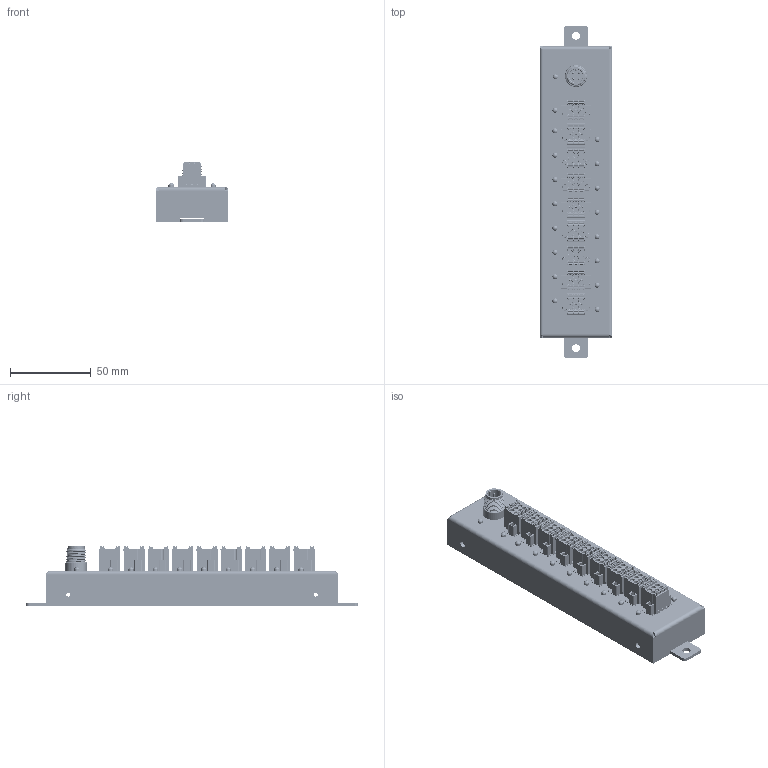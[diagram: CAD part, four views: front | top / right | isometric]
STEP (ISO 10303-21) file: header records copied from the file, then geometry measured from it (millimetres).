
FILE_DESCRIPTION (( 'STEP AP214' ), '1' );
FILE_NAME ('长款.STEP', '2024-08-28T09:56:24', ( '微软用户' ), ( '微软中国' ), 'SwSTEP 2.0', 'SolidWorks 2023', '' );
FILE_SCHEMA (( 'AUTOMOTIVE_DESIGN' ));
Length unit declared in the file: millimetre
Products named in the file (9): 000_137_103; MC-DPT3.5V06-I-BK-2000-直针; 底壳; MC-DRT3.5H06P-K-0001; KSD-JS000628-长款为IOL20-A; 长款; 上盖; M12A04C-MPBRCU-004(M12A面板式公头4芯-4，IO); PCB
Assembly tree (41 placements, depth 3):
  长款
    KSD-JS000628-长款为IOL20-A
      底壳
      上盖
      PCB
    MC-DRT3.5H06P-K-0001  x9
    MC-DPT3.5V06-I-BK-2000-直针  x9
    M12A04C-MPBRCU-004(M12A面板式公头4芯-4，IO)
    000_137_103  x18
Bounding box: 45 x 205 x 37 mm (x, y, z)
Volume: 89379.4 mm3; surface area: 101408.8 mm2
Topology: 40 solids, 78 shells, 11628 faces, 31227 edges, 20381 vertices
Faces by surface type: plane 6885, cylinder 3405, torus 539, cone 407, bspline 354, sphere 38
Entity records: 67605 total; most frequent: CARTESIAN_POINT 17097, ORIENTED_EDGE 10368, DIRECTION 9497, EDGE_CURVE 5184, LINE 3455, VECTOR 3455, VERTEX_POINT 3381, AXIS2_PLACEMENT_3D 3021
